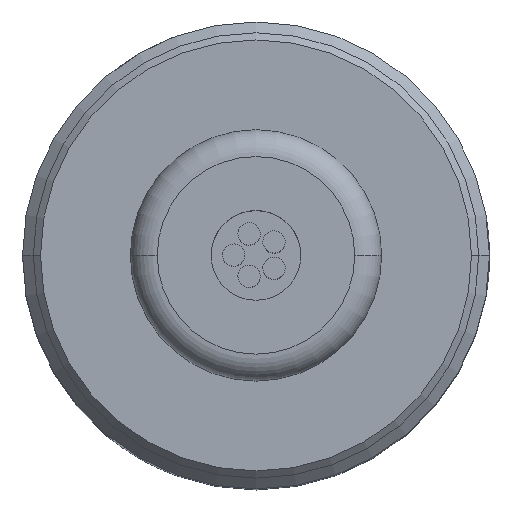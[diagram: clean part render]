
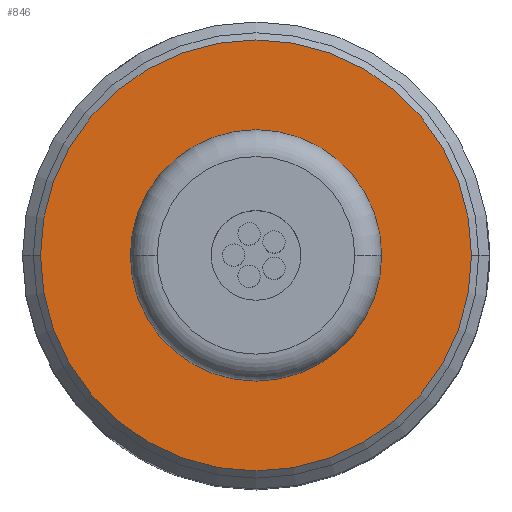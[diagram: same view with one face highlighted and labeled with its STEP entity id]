
A CAD part, top view. The second image highlights one B-rep face of the part: STEP entity #846.
In plain terms, the highlighted planar face has unit normal (0, 0, 1).
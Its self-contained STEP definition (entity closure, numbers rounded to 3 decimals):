
#846=ADVANCED_FACE('',(#1208,#1209),#1210,.F.);
#1208=FACE_OUTER_BOUND('',#1622,.T.);
#1209=FACE_BOUND('',#1623,.T.);
#1210=PLANE('',#1624);
#1622=EDGE_LOOP('',(#2845,#2846));
#1623=EDGE_LOOP('',(#2847,#2848));
#1624=AXIS2_PLACEMENT_3D('',#2849,#2850,#2851);
#2845=ORIENTED_EDGE('',*,*,#3461,.T.);
#2846=ORIENTED_EDGE('',*,*,#3503,.T.);
#2847=ORIENTED_EDGE('',*,*,#3465,.T.);
#2848=ORIENTED_EDGE('',*,*,#3502,.T.);
#2849=CARTESIAN_POINT('',(0.189,13.482,8.55));
#2850=DIRECTION('',(0.0,0.0,-1.0));
#2851=DIRECTION('',(-1.0,0.0,0.0));
#3461=EDGE_CURVE('',#4083,#4087,#4089,.F.);
#3465=EDGE_CURVE('',#4091,#4095,#4097,.T.);
#3502=EDGE_CURVE('',#4095,#4091,#4156,.T.);
#3503=EDGE_CURVE('',#4087,#4083,#4157,.F.);
#4083=VERTEX_POINT('',#5157);
#4087=VERTEX_POINT('',#5162);
#4089=CIRCLE('',#5165,6.);
#4091=VERTEX_POINT('',#5167);
#4095=VERTEX_POINT('',#5172);
#4097=CIRCLE('',#5175,1.7);
#4156=CIRCLE('',#5420,1.7);
#4157=CIRCLE('',#5421,6.);
#5157=CARTESIAN_POINT('',(-5.811,13.482,8.55));
#5162=CARTESIAN_POINT('',(6.189,13.482,8.55));
#5165=AXIS2_PLACEMENT_3D('',#6068,#6069,#6070);
#5167=CARTESIAN_POINT('',(1.889,13.482,8.55));
#5172=CARTESIAN_POINT('',(-1.511,13.482,8.55));
#5175=AXIS2_PLACEMENT_3D('',#6076,#6077,#6078);
#5420=AXIS2_PLACEMENT_3D('',#6113,#6114,#6115);
#5421=AXIS2_PLACEMENT_3D('',#6116,#6117,#6118);
#6068=CARTESIAN_POINT('',(0.189,13.482,8.55));
#6069=DIRECTION('',(0.0,0.0,-1.0));
#6070=DIRECTION('',(-1.0,0.0,0.0));
#6076=CARTESIAN_POINT('',(0.189,13.482,8.55));
#6077=DIRECTION('',(0.0,0.0,-1.0));
#6078=DIRECTION('',(1.0,0.0,0.0));
#6113=CARTESIAN_POINT('',(0.189,13.482,8.55));
#6114=DIRECTION('',(0.0,0.0,-1.0));
#6115=DIRECTION('',(1.0,0.0,0.0));
#6116=CARTESIAN_POINT('',(0.189,13.482,8.55));
#6117=DIRECTION('',(0.0,0.0,-1.0));
#6118=DIRECTION('',(-1.0,0.0,0.0));
